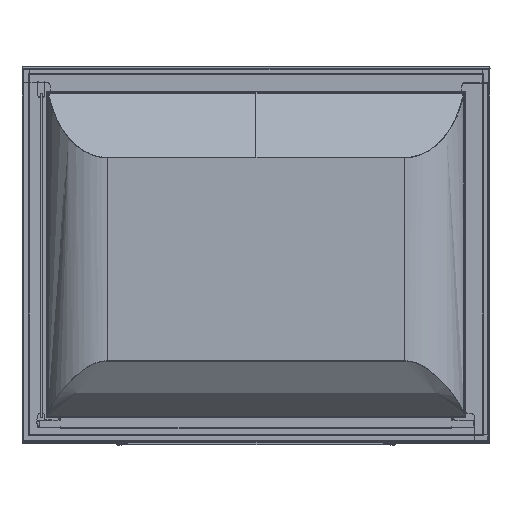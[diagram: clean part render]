
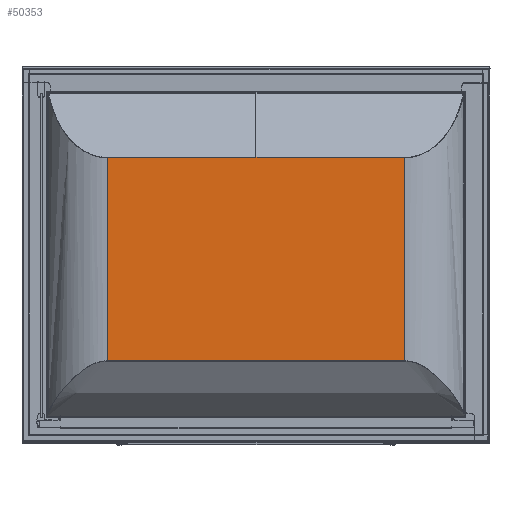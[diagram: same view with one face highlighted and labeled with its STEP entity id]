
A CAD part, top view. The second image highlights one B-rep face of the part: STEP entity #50353.
In plain terms, the highlighted planar face has unit normal (0, 0, 1).
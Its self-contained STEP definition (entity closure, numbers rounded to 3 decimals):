
#50161=CARTESIAN_POINT('',(-183.246,-194.334,2170.));
#50162=VERTEX_POINT('',#50161);
#50176=CARTESIAN_POINT('',(-183.246,-631.101,2170.));
#50177=VERTEX_POINT('',#50176);
#50178=CARTESIAN_POINT('',(-183.246,-631.101,2170.));
#50179=DIRECTION('',(0.0,1.0,0.0));
#50180=VECTOR('',#50179,436.767);
#50181=LINE('',#50178,#50180);
#50182=EDGE_CURVE('',#50177,#50162,#50181,.T.);
#50268=CARTESIAN_POINT('',(-820.792,-631.101,2170.));
#50269=VERTEX_POINT('',#50268);
#50270=CARTESIAN_POINT('',(-183.246,-631.101,2170.));
#50271=DIRECTION('',(-1.0,0.0,0.0));
#50272=VECTOR('',#50271,637.546);
#50273=LINE('',#50270,#50272);
#50274=EDGE_CURVE('',#50177,#50269,#50273,.T.);
#50322=CARTESIAN_POINT('',(-182.946,-630.686,2170.));
#50323=DIRECTION('',(0.0,0.0,1.0));
#50324=DIRECTION('',(0.0,1.0,0.0));
#50325=AXIS2_PLACEMENT_3D('',#50322,#50323,#50324);
#50326=PLANE('',#50325);
#50327=ORIENTED_EDGE('',*,*,#50182,.T.);
#50328=CARTESIAN_POINT('',(-502.019,-194.334,2170.));
#50329=VERTEX_POINT('',#50328);
#50330=CARTESIAN_POINT('',(-502.019,-194.334,2170.));
#50331=DIRECTION('',(1.0,0.0,0.0));
#50332=VECTOR('',#50331,318.773);
#50333=LINE('',#50330,#50332);
#50334=EDGE_CURVE('',#50329,#50162,#50333,.T.);
#50335=ORIENTED_EDGE('',*,*,#50334,.F.);
#50336=CARTESIAN_POINT('',(-820.792,-194.334,2170.));
#50337=VERTEX_POINT('',#50336);
#50338=CARTESIAN_POINT('',(-820.792,-194.334,2170.));
#50339=DIRECTION('',(1.0,0.0,0.0));
#50340=VECTOR('',#50339,318.773);
#50341=LINE('',#50338,#50340);
#50342=EDGE_CURVE('',#50337,#50329,#50341,.T.);
#50343=ORIENTED_EDGE('',*,*,#50342,.F.);
#50344=CARTESIAN_POINT('',(-820.792,-631.101,2170.));
#50345=DIRECTION('',(0.0,1.0,0.0));
#50346=VECTOR('',#50345,436.767);
#50347=LINE('',#50344,#50346);
#50348=EDGE_CURVE('',#50269,#50337,#50347,.T.);
#50349=ORIENTED_EDGE('',*,*,#50348,.F.);
#50350=ORIENTED_EDGE('',*,*,#50274,.F.);
#50351=EDGE_LOOP('',(#50327,#50335,#50343,#50349,#50350));
#50352=FACE_OUTER_BOUND('',#50351,.T.);
#50353=ADVANCED_FACE('',(#50352),#50326,.T.);
